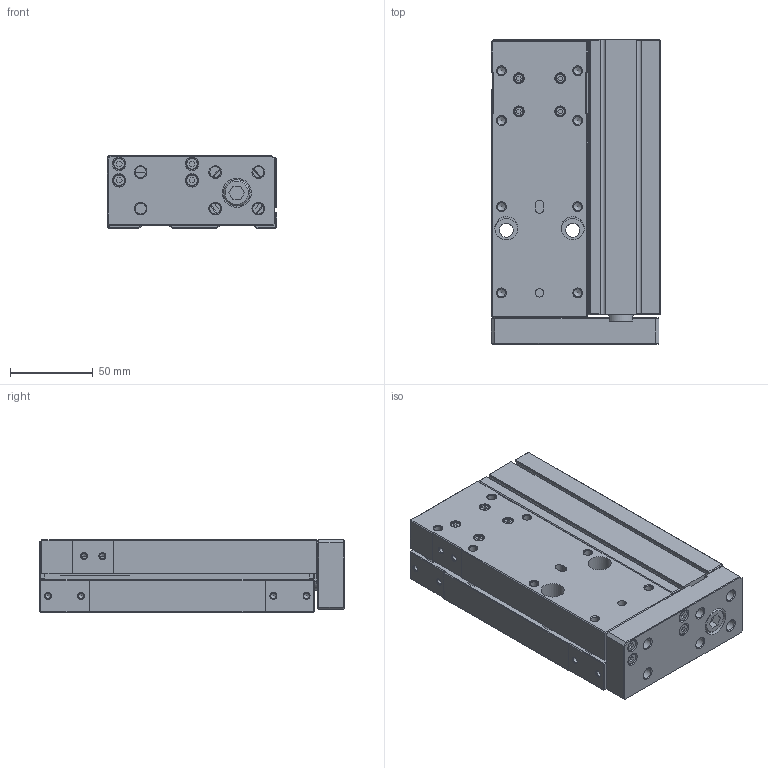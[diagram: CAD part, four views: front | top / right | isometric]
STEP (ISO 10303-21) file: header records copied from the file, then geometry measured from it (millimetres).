
FILE_DESCRIPTION((''),'2;1');
FILE_NAME('I:\3D電子目錄\氣缸\FMR(L)\FMR(L)\FMR32x100.stp','2007-10-15T16:12:46',('Administrator'),(''),'Autodesk Inventor 11','Autodesk Inventor 11','');
FILE_SCHEMA(('AUTOMOTIVE_DESIGN { 1 0 10303 214 1 1 1 1 }'));
Length unit declared in the file: millimetre
Products named in the file (1): FMR32x100
Bounding box: 102 x 183.8 x 44 mm (x, y, z)
Volume: 599967.3 mm3; surface area: 147248.9 mm2
Topology: 14 solids, 14 shells, 547 faces, 1272 edges, 800 vertices
Faces by surface type: plane 330, bspline 118, cone 50, cylinder 49
Full cylindrical faces by diameter (mm): 1.5 x2, 2 x2, 4.2 x1, 5 x2, 5.5 x4, 7 x4, 11 x1, 11.5 x1, 12 x1, 14 x4, 16 x4, 18 x1, 20 x1, 28.5 x2, 32 x3, 34 x3, 36 x2
Entity records: 15300 total; most frequent: CARTESIAN_POINT 4099, DIRECTION 2187, ORIENTED_EDGE 2060, EDGE_CURVE 1030, EDGE_LOOP 827, AXIS2_PLACEMENT_3D 741, VERTEX_POINT 731, VECTOR 705
